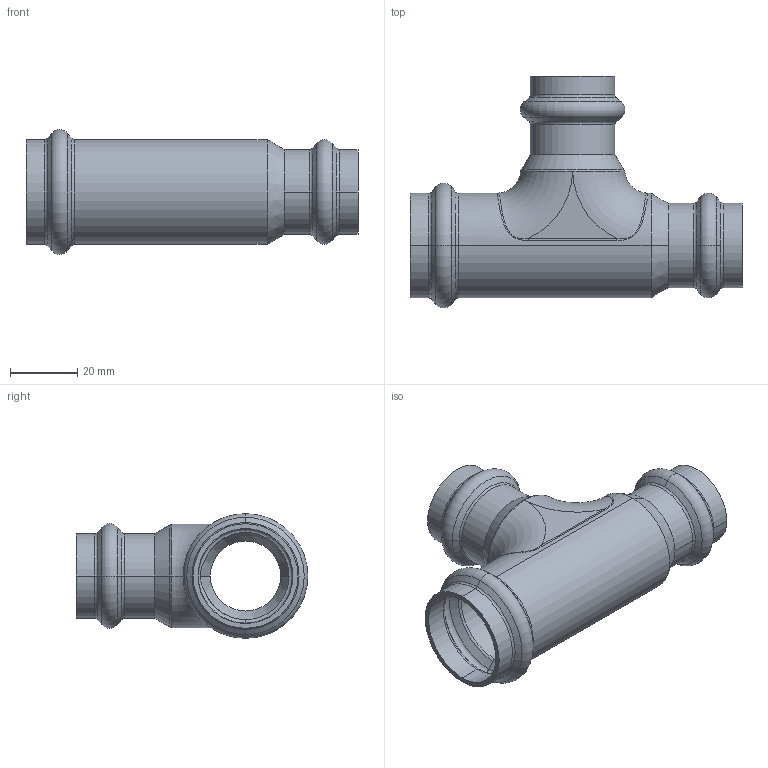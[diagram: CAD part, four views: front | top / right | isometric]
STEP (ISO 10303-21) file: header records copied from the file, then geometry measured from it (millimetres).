
FILE_DESCRIPTION (( 'STEP AP203' ), '1' );
FILE_NAME ('SP5130 Ø28-22-22.STEP', '2017-04-24T13:19:04', ( '' ), ( '' ), 'SwSTEP 2.0', 'SolidWorks 2016', '' );
FILE_SCHEMA (( 'CONFIG_CONTROL_DESIGN' ));
Length unit declared in the file: millimetre
Products named in the file (1): SP5130 Ø28-22-22
Bounding box: 99 x 69.1 x 37.2 mm (x, y, z)
Volume: 23939.2 mm3; surface area: 24623 mm2
Topology: 1 solids, 1 shells, 129 faces, 284 edges, 154 vertices
Faces by surface type: torus 46, cone 36, cylinder 35, bspline 6, plane 6
Entity records: 5268 total; most frequent: CARTESIAN_POINT 2325, DIRECTION 688, ORIENTED_EDGE 560, AXIS2_PLACEMENT_3D 308, EDGE_CURVE 280, CIRCLE 184, VERTEX_POINT 154, EDGE_LOOP 134
